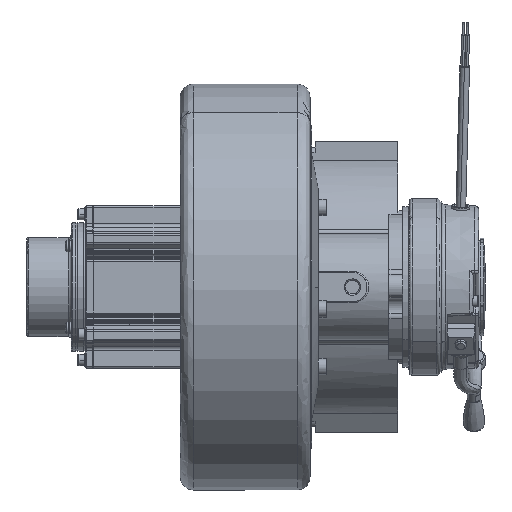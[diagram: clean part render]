
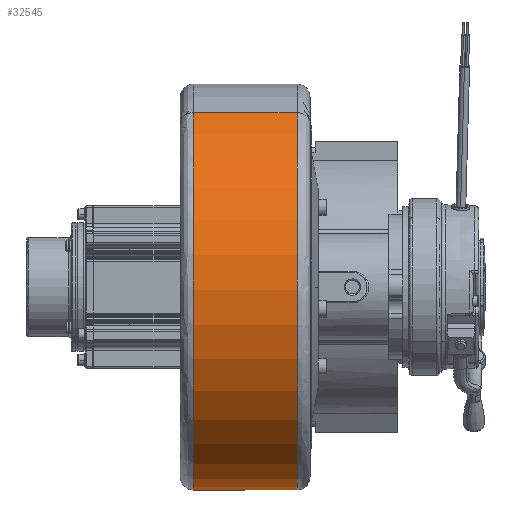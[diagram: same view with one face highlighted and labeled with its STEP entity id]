
A CAD part, front view. The second image highlights one B-rep face of the part: STEP entity #32545.
In plain terms, the highlighted cylindrical face has radius 125 mm (diameter 250 mm), a partial arc.
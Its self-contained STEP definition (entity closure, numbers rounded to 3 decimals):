
#7259 = AXIS2_PLACEMENT_3D ( 'NONE', #36656, #36658, #36660 ) ;
#9297 = VERTEX_POINT ( 'NONE', #69831 ) ;
#9336 = VERTEX_POINT ( 'NONE', #69871 ) ;
#15809 = CARTESIAN_POINT ( 'NONE',  ( -34.624, 53.974, 350.578 ) ) ;
#15810 = DIRECTION ( 'NONE',  ( 1., 0., 0. ) ) ;
#15818 = DIRECTION ( 'NONE',  ( 0., -0.513, 0.858 ) ) ;
#19579 = FACE_OUTER_BOUND ( 'NONE', #49576, .T. ) ;
#19587 = CYLINDRICAL_SURFACE ( 'NONE', #55495, 125. ) ;
#26509 = VERTEX_POINT ( 'NONE', #45674 ) ;
#26819 = VERTEX_POINT ( 'NONE', #59336 ) ;
#32545 = ADVANCED_FACE ( 'NONE', ( #19579 ), #19587, .T. ) ;
#35496 = DIRECTION ( 'NONE',  ( 1., 0., 0. ) ) ;
#35501 = CARTESIAN_POINT ( 'NONE',  ( -34.624, -10.132, 457.888 ) ) ;
#36627 = CARTESIAN_POINT ( 'NONE',  ( -34.624, 118.079, 243.268 ) ) ;
#36630 = DIRECTION ( 'NONE',  ( 1., 0., 0. ) ) ;
#36656 = CARTESIAN_POINT ( 'NONE',  ( -118.72, 53.974, 350.578 ) ) ;
#36658 = DIRECTION ( 'NONE',  ( -1., 0., 0. ) ) ;
#36660 = DIRECTION ( 'NONE',  ( 0., -0.513, 0.858 ) ) ;
#37613 = LINE ( 'NONE', #35501, #37621 ) ;
#37621 = VECTOR ( 'NONE', #35496, 1000. ) ;
#37754 = AXIS2_PLACEMENT_3D ( 'NONE', #58001, #58002, #58003 ) ;
#37869 = LINE ( 'NONE', #36627, #37875 ) ;
#37875 = VECTOR ( 'NONE', #36630, 1000. ) ;
#37890 = CIRCLE ( 'NONE', #7259, 125. ) ;
#38668 = CIRCLE ( 'NONE', #37754, 125. ) ;
#45674 = CARTESIAN_POINT ( 'NONE',  ( -118.72, 118.079, 243.268 ) ) ;
#49576 = EDGE_LOOP ( 'NONE', ( #53354, #53279, #50252, #50723 ) ) ;
#50252 = ORIENTED_EDGE ( 'NONE', *, *, #70103, .T. ) ;
#50723 = ORIENTED_EDGE ( 'NONE', *, *, #69682, .F. ) ;
#53279 = ORIENTED_EDGE ( 'NONE', *, *, #70080, .T. ) ;
#53354 = ORIENTED_EDGE ( 'NONE', *, *, #71894, .T. ) ;
#55495 = AXIS2_PLACEMENT_3D ( 'NONE', #15809, #15810, #15818 ) ;
#58001 = CARTESIAN_POINT ( 'NONE',  ( -182.72, 53.974, 350.578 ) ) ;
#58002 = DIRECTION ( 'NONE',  ( 1., 0., 0. ) ) ;
#58003 = DIRECTION ( 'NONE',  ( 0., -0.513, 0.858 ) ) ;
#59336 = CARTESIAN_POINT ( 'NONE',  ( -118.72, -10.132, 457.888 ) ) ;
#69682 = EDGE_CURVE ( 'NONE', #9297, #26819, #37613, .T. ) ;
#69831 = CARTESIAN_POINT ( 'NONE',  ( -182.72, -10.132, 457.888 ) ) ;
#69871 = CARTESIAN_POINT ( 'NONE',  ( -182.72, 118.079, 243.268 ) ) ;
#70080 = EDGE_CURVE ( 'NONE', #9336, #26509, #37869, .T. ) ;
#70103 = EDGE_CURVE ( 'NONE', #26509, #26819, #37890, .T. ) ;
#71894 = EDGE_CURVE ( 'NONE', #9297, #9336, #38668, .T. ) ;
